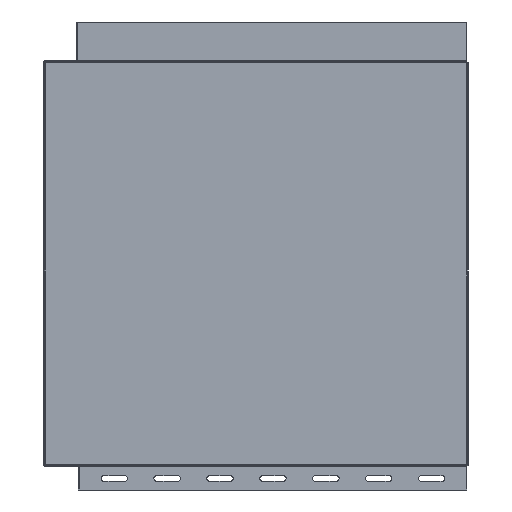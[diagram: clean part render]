
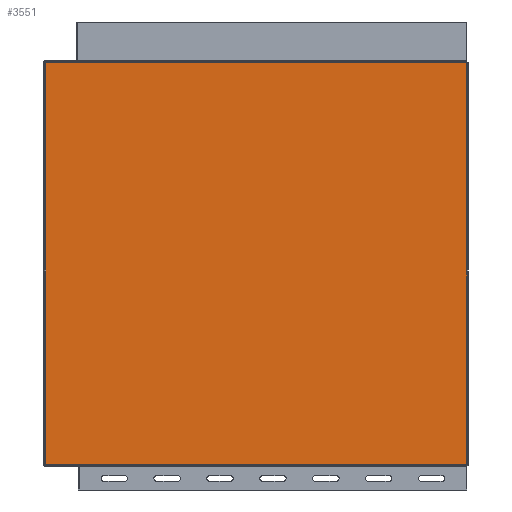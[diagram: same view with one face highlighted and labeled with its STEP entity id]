
A CAD part, front view. The second image highlights one B-rep face of the part: STEP entity #3551.
In plain terms, the highlighted planar face has unit normal (0, -1, 0).
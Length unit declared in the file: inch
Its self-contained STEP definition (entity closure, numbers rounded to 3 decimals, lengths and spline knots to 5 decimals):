
#352=FACE_OUTER_BOUND('',#530,.T.);
#530=EDGE_LOOP('',(#2944,#2945,#2946,#2947,#2948,#2949));
#614=LINE('',#4891,#948);
#616=LINE('',#4901,#950);
#619=LINE('',#4906,#953);
#832=LINE('',#6066,#1166);
#868=LINE('',#6243,#1202);
#948=VECTOR('',#3929,39.37008);
#950=VECTOR('',#3941,0.3937);
#953=VECTOR('',#3946,0.3937);
#1166=VECTOR('',#4511,39.37008);
#1202=VECTOR('',#4609,39.37008);
#1369=CIRCLE('',#3829,0.005);
#1400=VERTEX_POINT('',#4883);
#1401=VERTEX_POINT('',#4890);
#1404=VERTEX_POINT('',#4900);
#1405=VERTEX_POINT('',#4904);
#1641=VERTEX_POINT('',#6058);
#1674=VERTEX_POINT('',#6190);
#1757=EDGE_CURVE('',#1401,#1400,#614,.T.);
#1762=EDGE_CURVE('',#1404,#1401,#616,.T.);
#1765=EDGE_CURVE('',#1405,#1404,#619,.T.);
#2100=EDGE_CURVE('',#1641,#1400,#832,.T.);
#2146=EDGE_CURVE('',#1405,#1674,#1369,.T.);
#2165=EDGE_CURVE('',#1641,#1674,#868,.T.);
#2944=ORIENTED_EDGE('',*,*,#1762,.T.);
#2945=ORIENTED_EDGE('',*,*,#1757,.T.);
#2946=ORIENTED_EDGE('',*,*,#2100,.F.);
#2947=ORIENTED_EDGE('',*,*,#2165,.T.);
#2948=ORIENTED_EDGE('',*,*,#2146,.F.);
#2949=ORIENTED_EDGE('',*,*,#1765,.T.);
#3389=PLANE('',#3857);
#3551=ADVANCED_FACE('',(#352),#3389,.T.);
#3829=AXIS2_PLACEMENT_3D('',#6191,#4579,#4580);
#3857=AXIS2_PLACEMENT_3D('',#6357,#4662,#4663);
#3929=DIRECTION('',(0.,0.,-1.));
#3941=DIRECTION('',(-1.,0.,0.));
#3946=DIRECTION('',(0.,0.,-1.));
#4511=DIRECTION('',(-1.,0.,0.));
#4579=DIRECTION('center_axis',(0.,-1.,0.));
#4580=DIRECTION('ref_axis',(-0.707,0.,-0.707));
#4609=DIRECTION('',(0.,0.,1.));
#4662=DIRECTION('center_axis',(0.,-1.,0.));
#4663=DIRECTION('ref_axis',(0.,0.,-1.));
#4883=CARTESIAN_POINT('',(0.386,107.77033,51.548));
#4890=CARTESIAN_POINT('',(0.386,107.77033,62.932));
#4891=CARTESIAN_POINT('',(0.386,107.77033,51.548));
#4900=CARTESIAN_POINT('',(12.324,107.77033,62.932));
#4901=CARTESIAN_POINT('',(12.824,107.77033,62.932));
#4904=CARTESIAN_POINT('',(12.324,107.77033,62.937));
#4906=CARTESIAN_POINT('',(12.324,107.77033,57.28725));
#6058=CARTESIAN_POINT('',(12.32737,107.77033,51.548));
#6066=CARTESIAN_POINT('',(13.324,107.77033,51.548));
#6190=CARTESIAN_POINT('',(12.32737,107.77033,62.93227));
#6191=CARTESIAN_POINT('Origin',(12.329,107.77033,62.937));
#6243=CARTESIAN_POINT('',(12.32737,107.77033,63.057));
#6357=CARTESIAN_POINT('Origin',(13.324,107.77033,51.548));
